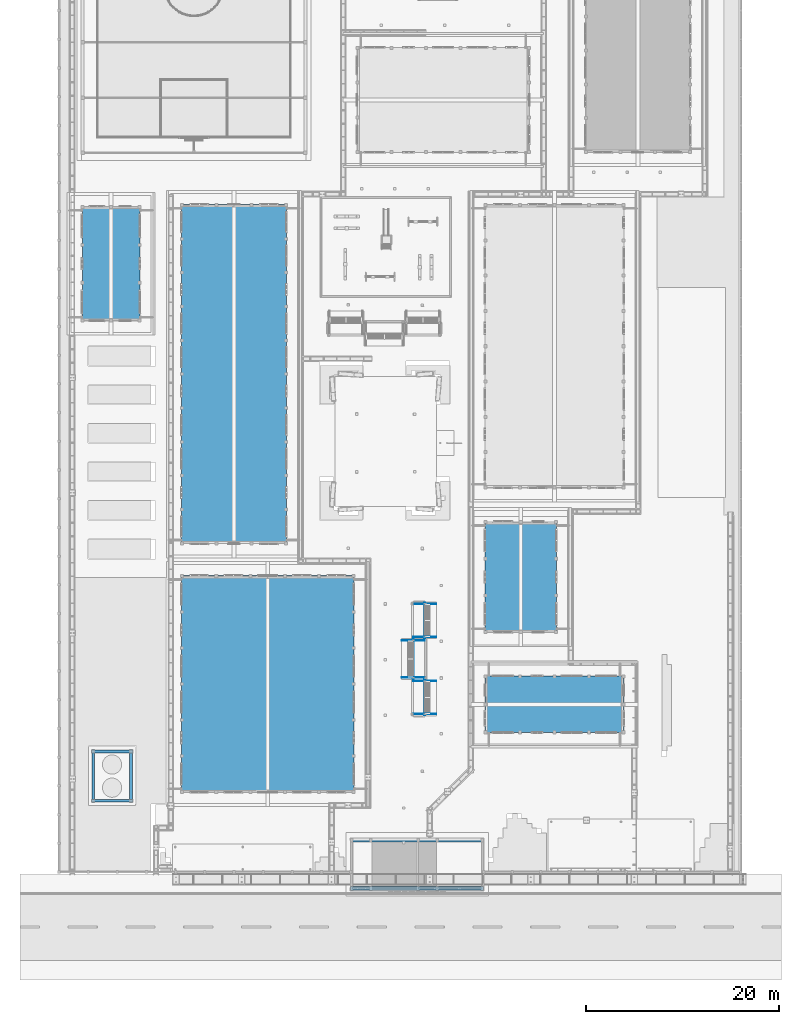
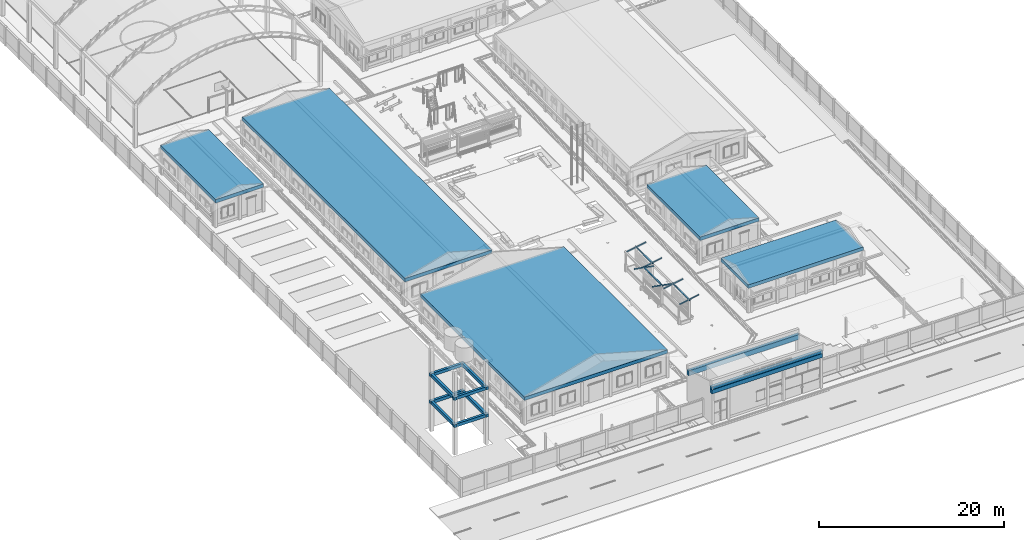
# One storey, part 15 of 151: 25 beams.
"""IFC2X3 building model written with IfcOpenShell, lengths in metres."""

from ifc_helpers import new_model, si_unit, origin, origin_with_axes, place, context, subcontext, project, spatial, faceted_brep, element, save


model = new_model("IFC2X3")

# Units and contexts
model_context = context("Model", 3, precision=1e-05, world=origin_with_axes())
body_context = subcontext(model_context, "Body", "Model", "MODEL_VIEW")
ifc_project = project(units=[si_unit("LENGTHUNIT", "METRE"), si_unit("AREAUNIT", "SQUARE_METRE"), si_unit("VOLUMEUNIT", "CUBIC_METRE"), si_unit("PLANEANGLEUNIT", "RADIAN")], contexts=[model_context])

# Site, building, storey
site_placement = place(None, origin_with_axes())
site = spatial("IfcSite", under=ifc_project, at=site_placement, Name="Predio Los Mangos - Morales, San Martín", CompositionType="ELEMENT")
building_placement = place(site_placement, origin())
building = spatial("IfcBuilding", under=site, at=building_placement, Name="Hogar de Refugio Temporal", CompositionType="ELEMENT")
storey_placement = place(building_placement, origin())
storey = spatial("IfcBuildingStorey", under=building, at=storey_placement, Name="NIVEL 1 (NPT +0.00)", CompositionType="ELEMENT", Elevation=0.0)

# Beams
beam_1_placement = place(storey_placement, origin())
element("IfcBeam", 1, at=beam_1_placement, inside=storey, Name="E-01_viga", ObjectType="Viga", context=body_context, shape_type="Brep", body=[
    faceted_brep([(13.76, 26.26, 3.3), (13.76, 48.74, 3.3), (31.64, 48.74, 3.3), (31.64, 26.26, 3.3), (13.76, 26.26, 3.75), (31.64, 26.26, 3.75), (31.64, 48.74, 3.75), (13.76, 48.74, 3.75)], [[[0, 1, 2, 3]], [[4, 5, 6, 7]], [[0, 3, 5, 4]], [[3, 2, 6, 5]], [[2, 1, 7, 6]], [[1, 0, 4, 7]]]),
])
beam_2_placement = place(storey_placement, origin())
element("IfcBeam", 2, at=beam_2_placement, inside=storey, Name="E-02_viga", ObjectType="Viga", context=body_context, shape_type="Brep", body=[
    faceted_brep([(45.26, 42.86, 3.3), (45.26, 54.34, 3.3), (52.64, 54.34, 3.3), (52.64, 42.86, 3.3), (45.26, 42.86, 3.75), (52.64, 42.86, 3.75), (52.64, 54.34, 3.75), (45.26, 54.34, 3.75)], [[[0, 1, 2, 3]], [[4, 5, 6, 7]], [[0, 3, 5, 4]], [[3, 2, 6, 5]], [[2, 1, 7, 6]], [[1, 0, 4, 7]]]),
])
beam_3_placement = place(storey_placement, origin())
element("IfcBeam", 3, at=beam_3_placement, inside=storey, Name="E-03_viga", ObjectType="Viga", context=body_context, shape_type="Brep", body=[
    faceted_brep([(45.26, 32.46, 3.3), (45.26, 38.34, 3.3), (59.64, 38.34, 3.3), (59.64, 32.46, 3.3), (45.26, 32.46, 3.75), (59.64, 32.46, 3.75), (59.64, 38.34, 3.75), (45.26, 38.34, 3.75)], [[[0, 1, 2, 3]], [[4, 5, 6, 7]], [[0, 3, 5, 4]], [[3, 2, 6, 5]], [[2, 1, 7, 6]], [[1, 0, 4, 7]]]),
])
beam_4_placement = place(storey_placement, origin())
element("IfcBeam", 4, at=beam_4_placement, inside=storey, Name="E-04_viga", ObjectType="Viga", context=body_context, shape_type="Brep", body=[
    faceted_brep([(13.76, 52.06, 3.3), (13.76, 87.24, 3.3), (24.64, 87.24, 3.3), (24.64, 52.06, 3.3), (13.76, 52.06, 3.75), (24.64, 52.06, 3.75), (24.64, 87.24, 3.75), (13.76, 87.24, 3.75)], [[[0, 1, 2, 3]], [[4, 5, 6, 7]], [[0, 3, 5, 4]], [[3, 2, 6, 5]], [[2, 1, 7, 6]], [[1, 0, 4, 7]]]),
])
beam_5_placement = place(storey_placement, origin())
element("IfcBeam", 5, at=beam_5_placement, inside=storey, Name="E-09_viga", ObjectType="Viga", context=body_context, shape_type="Brep", body=[
    faceted_brep([(3.46, 75.16, 3.3), (3.46, 87.04, 3.3), (9.44, 87.04, 3.3), (9.44, 75.16, 3.3), (3.46, 75.16, 3.75), (9.44, 75.16, 3.75), (9.44, 87.04, 3.75), (3.46, 87.04, 3.75)], [[[0, 1, 2, 3]], [[4, 5, 6, 7]], [[0, 3, 5, 4]], [[3, 2, 6, 5]], [[2, 1, 7, 6]], [[1, 0, 4, 7]]]),
])
beam_6_placement = place(storey_placement, origin())
element("IfcBeam", 6, at=beam_6_placement, inside=storey, Name="oe01_viga", ObjectType="Viga", context=body_context, shape_type="Brep", body=[
    faceted_brep([(31.3, 16.1, 4.18), (31.3, 16.5, 4.18), (45.1, 16.5, 4.18), (45.1, 16.1, 4.18), (31.3, 16.1, 4.71), (45.1, 16.1, 4.71), (45.1, 16.5, 4.71), (31.3, 16.5, 4.71)], [[[0, 1, 2, 3]], [[4, 5, 6, 7]], [[0, 3, 5, 4]], [[3, 2, 6, 5]], [[2, 1, 7, 6]], [[1, 0, 4, 7]]]),
])
beam_7_placement = place(storey_placement, origin())
element("IfcBeam", 7, at=beam_7_placement, inside=storey, Name="oe01_cielo", ObjectType="Viga", context=body_context, shape_type="Brep", body=[
    faceted_brep([(31.3, 16.15, 4.71), (31.3, 16.5, 4.71), (45.1, 16.5, 4.71), (45.1, 16.15, 4.71), (31.3, 16.15, 5.09), (45.1, 16.15, 5.09), (45.1, 16.5, 5.09), (31.3, 16.5, 5.09)], [[[0, 1, 2, 3]], [[4, 5, 6, 7]], [[0, 3, 5, 4]], [[3, 2, 6, 5]], [[2, 1, 7, 6]], [[1, 0, 4, 7]]]),
])
beam_8_placement = place(storey_placement, origin())
element("IfcBeam", 8, at=beam_8_placement, inside=storey, Name="oe01_viga_post", ObjectType="Viga", context=body_context, shape_type="Brep", body=[
    faceted_brep([(31.3, 21.1, 3.55), (31.3, 21.5, 3.55), (45.1, 21.5, 3.55), (45.1, 21.1, 3.55), (31.3, 21.1, 4.19), (45.1, 21.1, 4.19), (45.1, 21.5, 4.19), (31.3, 21.5, 4.19)], [[[0, 1, 2, 3]], [[4, 5, 6, 7]], [[0, 3, 5, 4]], [[3, 2, 6, 5]], [[2, 1, 7, 6]], [[1, 0, 4, 7]]]),
])
beam_9_placement = place(storey_placement, origin())
element("IfcBeam", 9, at=beam_9_placement, inside=storey, Name="tanque_viga", ObjectType="Viga", context=body_context, shape_type="Brep", body=[
    faceted_brep([(4.4, 25.25, 3.6), (4.4, 25.55, 3.6), (8.7, 25.55, 3.6), (8.7, 25.25, 3.6), (4.4, 25.25, 4.0), (8.7, 25.25, 4.0), (8.7, 25.55, 4.0), (4.4, 25.55, 4.0)], [[[0, 1, 2, 3]], [[4, 5, 6, 7]], [[0, 3, 5, 4]], [[3, 2, 6, 5]], [[2, 1, 7, 6]], [[1, 0, 4, 7]]]),
])
beam_10_placement = place(storey_placement, origin())
element("IfcBeam", 10, at=beam_10_placement, inside=storey, Name="tanque_viga", ObjectType="Viga", context=body_context, shape_type="Brep", body=[
    faceted_brep([(4.4, 30.35, 3.6), (4.4, 30.65, 3.6), (8.7, 30.65, 3.6), (8.7, 30.35, 3.6), (4.4, 30.35, 4.0), (8.7, 30.35, 4.0), (8.7, 30.65, 4.0), (4.4, 30.65, 4.0)], [[[0, 1, 2, 3]], [[4, 5, 6, 7]], [[0, 3, 5, 4]], [[3, 2, 6, 5]], [[2, 1, 7, 6]], [[1, 0, 4, 7]]]),
])
beam_11_placement = place(storey_placement, origin())
element("IfcBeam", 11, at=beam_11_placement, inside=storey, Name="tanque_viga", ObjectType="Viga", context=body_context, shape_type="Brep", body=[
    faceted_brep([(4.45, 25.2, 3.6), (4.45, 30.7, 3.6), (4.75, 30.7, 3.6), (4.75, 25.2, 3.6), (4.45, 25.2, 4.0), (4.75, 25.2, 4.0), (4.75, 30.7, 4.0), (4.45, 30.7, 4.0)], [[[0, 1, 2, 3]], [[4, 5, 6, 7]], [[0, 3, 5, 4]], [[3, 2, 6, 5]], [[2, 1, 7, 6]], [[1, 0, 4, 7]]]),
])
beam_12_placement = place(storey_placement, origin())
element("IfcBeam", 12, at=beam_12_placement, inside=storey, Name="tanque_viga", ObjectType="Viga", context=body_context, shape_type="Brep", body=[
    faceted_brep([(8.35, 25.2, 3.6), (8.35, 30.7, 3.6), (8.65, 30.7, 3.6), (8.65, 25.2, 3.6), (8.35, 25.2, 4.0), (8.65, 25.2, 4.0), (8.65, 30.7, 4.0), (8.35, 30.7, 4.0)], [[[0, 1, 2, 3]], [[4, 5, 6, 7]], [[0, 3, 5, 4]], [[3, 2, 6, 5]], [[2, 1, 7, 6]], [[1, 0, 4, 7]]]),
])
beam_13_placement = place(storey_placement, origin())
element("IfcBeam", 13, at=beam_13_placement, inside=storey, Name="tanque_viga", ObjectType="Viga", context=body_context, shape_type="Brep", body=[
    faceted_brep([(4.4, 25.25, 7.2), (4.4, 25.55, 7.2), (8.7, 25.55, 7.2), (8.7, 25.25, 7.2), (4.4, 25.25, 7.6), (8.7, 25.25, 7.6), (8.7, 25.55, 7.6), (4.4, 25.55, 7.6)], [[[0, 1, 2, 3]], [[4, 5, 6, 7]], [[0, 3, 5, 4]], [[3, 2, 6, 5]], [[2, 1, 7, 6]], [[1, 0, 4, 7]]]),
])
beam_14_placement = place(storey_placement, origin())
element("IfcBeam", 14, at=beam_14_placement, inside=storey, Name="tanque_viga", ObjectType="Viga", context=body_context, shape_type="Brep", body=[
    faceted_brep([(4.4, 30.35, 7.2), (4.4, 30.65, 7.2), (8.7, 30.65, 7.2), (8.7, 30.35, 7.2), (4.4, 30.35, 7.6), (8.7, 30.35, 7.6), (8.7, 30.65, 7.6), (4.4, 30.65, 7.6)], [[[0, 1, 2, 3]], [[4, 5, 6, 7]], [[0, 3, 5, 4]], [[3, 2, 6, 5]], [[2, 1, 7, 6]], [[1, 0, 4, 7]]]),
])
beam_15_placement = place(storey_placement, origin())
element("IfcBeam", 15, at=beam_15_placement, inside=storey, Name="tanque_viga", ObjectType="Viga", context=body_context, shape_type="Brep", body=[
    faceted_brep([(4.45, 25.2, 7.2), (4.45, 30.7, 7.2), (4.75, 30.7, 7.2), (4.75, 25.2, 7.2), (4.45, 25.2, 7.6), (4.75, 25.2, 7.6), (4.75, 30.7, 7.6), (4.45, 30.7, 7.6)], [[[0, 1, 2, 3]], [[4, 5, 6, 7]], [[0, 3, 5, 4]], [[3, 2, 6, 5]], [[2, 1, 7, 6]], [[1, 0, 4, 7]]]),
])
beam_16_placement = place(storey_placement, origin())
element("IfcBeam", 16, at=beam_16_placement, inside=storey, Name="tanque_viga", ObjectType="Viga", context=body_context, shape_type="Brep", body=[
    faceted_brep([(8.35, 25.2, 7.2), (8.35, 30.7, 7.2), (8.65, 30.7, 7.2), (8.65, 25.2, 7.2), (8.35, 25.2, 7.6), (8.65, 25.2, 7.6), (8.65, 30.7, 7.6), (8.35, 30.7, 7.6)], [[[0, 1, 2, 3]], [[4, 5, 6, 7]], [[0, 3, 5, 4]], [[3, 2, 6, 5]], [[2, 1, 7, 6]], [[1, 0, 4, 7]]]),
])
beam_17_placement = place(storey_placement, origin())
element("IfcBeam", 17, at=beam_17_placement, inside=storey, Name="oc01_viga", ObjectType="Viga", context=body_context, shape_type="Brep", body=[
    faceted_brep([(39.05, 34.255, 2.81), (38.95, 34.255, 2.81), (38.95, 37.945, 2.81), (39.05, 37.945, 2.81), (39.05, 34.255, 2.93), (39.05, 37.945, 2.93), (38.95, 37.945, 2.93), (38.95, 34.255, 2.93)], [[[0, 1, 2, 3]], [[4, 5, 6, 7]], [[0, 3, 5, 4]], [[3, 2, 6, 5]], [[2, 1, 7, 6]], [[1, 0, 4, 7]]]),
])
beam_18_placement = place(storey_placement, origin())
element("IfcBeam", 18, at=beam_18_placement, inside=storey, Name="oc01_correa", ObjectType="Viga", context=body_context, shape_type="Brep", body=[
    faceted_brep([(37.8094, 34.36, 2.5909), (37.8094, 34.41, 2.5909), (40.2094, 34.41, 3.0509), (40.2094, 34.36, 3.0509), (37.7906, 34.36, 2.6891), (40.1906, 34.36, 3.1491), (40.1906, 34.41, 3.1491), (37.7906, 34.41, 2.6891)], [[[0, 1, 2, 3]], [[4, 5, 6, 7]], [[0, 3, 5, 4]], [[3, 2, 6, 5]], [[2, 1, 7, 6]], [[1, 0, 4, 7]]]),
])
beam_19_placement = place(storey_placement, origin())
element("IfcBeam", 19, at=beam_19_placement, inside=storey, Name="oc01_correa", ObjectType="Viga", context=body_context, shape_type="Brep", body=[
    faceted_brep([(37.8094, 37.79, 2.5909), (37.8094, 37.84, 2.5909), (40.2094, 37.84, 3.0509), (40.2094, 37.79, 3.0509), (37.7906, 37.79, 2.6891), (40.1906, 37.79, 3.1491), (40.1906, 37.84, 3.1491), (37.7906, 37.84, 2.6891)], [[[0, 1, 2, 3]], [[4, 5, 6, 7]], [[0, 3, 5, 4]], [[3, 2, 6, 5]], [[2, 1, 7, 6]], [[1, 0, 4, 7]]]),
])
beam_20_placement = place(storey_placement, origin())
element("IfcBeam", 20, at=beam_20_placement, inside=storey, Name="oc01_viga", ObjectType="Viga", context=body_context, shape_type="Brep", body=[
    faceted_brep([(37.85, 38.045, 2.81), (37.75, 38.045, 2.81), (37.75, 42.155, 2.81), (37.85, 42.155, 2.81), (37.85, 38.045, 2.93), (37.85, 42.155, 2.93), (37.75, 42.155, 2.93), (37.75, 38.045, 2.93)], [[[0, 1, 2, 3]], [[4, 5, 6, 7]], [[0, 3, 5, 4]], [[3, 2, 6, 5]], [[2, 1, 7, 6]], [[1, 0, 4, 7]]]),
])
beam_21_placement = place(storey_placement, origin())
element("IfcBeam", 21, at=beam_21_placement, inside=storey, Name="oc01_correa", ObjectType="Viga", context=body_context, shape_type="Brep", body=[
    faceted_brep([(38.9906, 38.2, 2.5909), (38.9906, 38.15, 2.5909), (36.5906, 38.15, 3.0509), (36.5906, 38.2, 3.0509), (39.0094, 38.2, 2.6891), (36.6094, 38.2, 3.1491), (36.6094, 38.15, 3.1491), (39.0094, 38.15, 2.6891)], [[[0, 1, 2, 3]], [[4, 5, 6, 7]], [[0, 3, 5, 4]], [[3, 2, 6, 5]], [[2, 1, 7, 6]], [[1, 0, 4, 7]]]),
])
beam_22_placement = place(storey_placement, origin())
element("IfcBeam", 22, at=beam_22_placement, inside=storey, Name="oc01_correa", ObjectType="Viga", context=body_context, shape_type="Brep", body=[
    faceted_brep([(38.9906, 42.05, 2.5909), (38.9906, 42.0, 2.5909), (36.5906, 42.0, 3.0509), (36.5906, 42.05, 3.0509), (39.0094, 42.05, 2.6891), (36.6094, 42.05, 3.1491), (36.6094, 42.0, 3.1491), (39.0094, 42.0, 2.6891)], [[[0, 1, 2, 3]], [[4, 5, 6, 7]], [[0, 3, 5, 4]], [[3, 2, 6, 5]], [[2, 1, 7, 6]], [[1, 0, 4, 7]]]),
])
beam_23_placement = place(storey_placement, origin())
element("IfcBeam", 23, at=beam_23_placement, inside=storey, Name="oc01_viga", ObjectType="Viga", context=body_context, shape_type="Brep", body=[
    faceted_brep([(39.05, 42.255, 2.81), (38.95, 42.255, 2.81), (38.95, 45.945, 2.81), (39.05, 45.945, 2.81), (39.05, 42.255, 2.93), (39.05, 45.945, 2.93), (38.95, 45.945, 2.93), (38.95, 42.255, 2.93)], [[[0, 1, 2, 3]], [[4, 5, 6, 7]], [[0, 3, 5, 4]], [[3, 2, 6, 5]], [[2, 1, 7, 6]], [[1, 0, 4, 7]]]),
])
beam_24_placement = place(storey_placement, origin())
element("IfcBeam", 24, at=beam_24_placement, inside=storey, Name="oc01_correa", ObjectType="Viga", context=body_context, shape_type="Brep", body=[
    faceted_brep([(37.8094, 42.36, 2.5909), (37.8094, 42.41, 2.5909), (40.2094, 42.41, 3.0509), (40.2094, 42.36, 3.0509), (37.7906, 42.36, 2.6891), (40.1906, 42.36, 3.1491), (40.1906, 42.41, 3.1491), (37.7906, 42.41, 2.6891)], [[[0, 1, 2, 3]], [[4, 5, 6, 7]], [[0, 3, 5, 4]], [[3, 2, 6, 5]], [[2, 1, 7, 6]], [[1, 0, 4, 7]]]),
])
beam_25_placement = place(storey_placement, origin())
element("IfcBeam", 25, at=beam_25_placement, inside=storey, Name="oc01_correa", ObjectType="Viga", context=body_context, shape_type="Brep", body=[
    faceted_brep([(37.8094, 45.79, 2.5909), (37.8094, 45.84, 2.5909), (40.2094, 45.84, 3.0509), (40.2094, 45.79, 3.0509), (37.7906, 45.79, 2.6891), (40.1906, 45.79, 3.1491), (40.1906, 45.84, 3.1491), (37.7906, 45.84, 2.6891)], [[[0, 1, 2, 3]], [[4, 5, 6, 7]], [[0, 3, 5, 4]], [[3, 2, 6, 5]], [[2, 1, 7, 6]], [[1, 0, 4, 7]]]),
])

save(model, "model.ifc")
